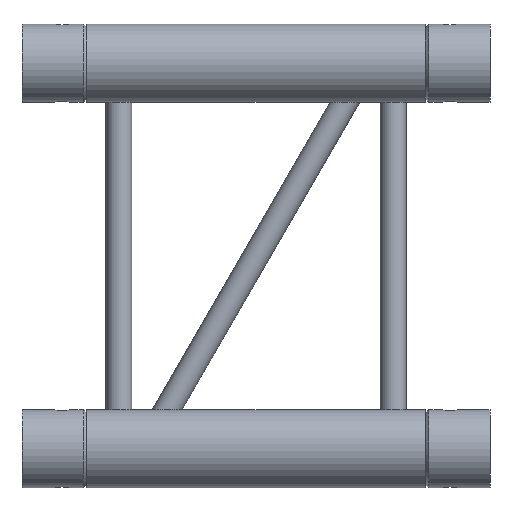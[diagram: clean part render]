
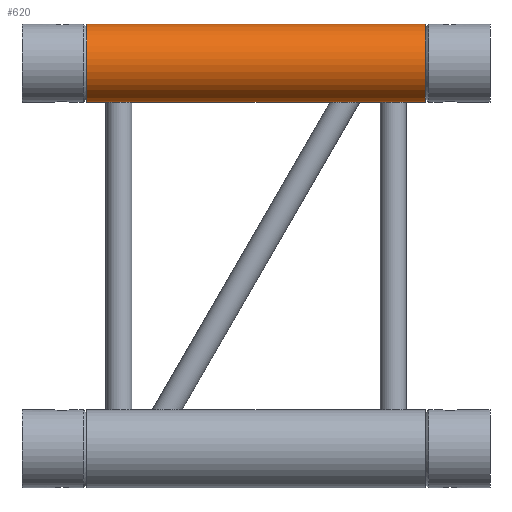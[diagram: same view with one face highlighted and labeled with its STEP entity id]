
A CAD part, top view. The second image highlights one B-rep face of the part: STEP entity #620.
In plain terms, the highlighted cylindrical face has radius 24.15 mm (diameter 48.3 mm), a full revolution.
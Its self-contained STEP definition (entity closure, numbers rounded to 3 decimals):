
#35=LINE('',#1067,#39);
#36=LINE('',#1070,#40);
#39=VECTOR('',#828,16.);
#40=VECTOR('',#829,16.);
#57=CIRCLE('',#689,24.15);
#59=CIRCLE('',#692,24.15);
#99=FACE_BOUND('',#232,.T.);
#100=FACE_BOUND('',#233,.T.);
#101=FACE_BOUND('',#234,.T.);
#131=CYLINDRICAL_SURFACE('',#694,24.15);
#164=FACE_OUTER_BOUND('',#231,.T.);
#231=EDGE_LOOP('',(#445));
#232=EDGE_LOOP('',(#446,#447));
#233=EDGE_LOOP('',(#448,#449));
#234=EDGE_LOOP('',(#450));
#308=VERTEX_POINT('',#1055);
#310=VERTEX_POINT('',#1060);
#312=VERTEX_POINT('',#1065);
#313=VERTEX_POINT('',#1066);
#314=VERTEX_POINT('',#1068);
#315=VERTEX_POINT('',#1069);
#362=EDGE_CURVE('',#308,#308,#57,.T.);
#364=EDGE_CURVE('',#310,#310,#59,.T.);
#366=EDGE_CURVE('',#312,#313,#35,.T.);
#367=EDGE_CURVE('',#314,#315,#36,.T.);
#445=ORIENTED_EDGE('',*,*,#362,.T.);
#446=ORIENTED_EDGE('',*,*,#366,.T.);
#447=ORIENTED_EDGE('',*,*,#366,.F.);
#448=ORIENTED_EDGE('',*,*,#367,.T.);
#449=ORIENTED_EDGE('',*,*,#367,.F.);
#450=ORIENTED_EDGE('',*,*,#364,.T.);
#620=ADVANCED_FACE('',(#164,#99,#100,#101),#131,.T.);
#689=AXIS2_PLACEMENT_3D('',#1056,#816,#817);
#692=AXIS2_PLACEMENT_3D('',#1061,#822,#823);
#694=AXIS2_PLACEMENT_3D('',#1064,#826,#827);
#816=DIRECTION('center_axis',(1.,0.,0.));
#817=DIRECTION('ref_axis',(0.,-0.895,0.445));
#822=DIRECTION('center_axis',(-1.,0.,0.));
#823=DIRECTION('ref_axis',(0.,-0.895,0.445));
#826=DIRECTION('center_axis',(1.,0.,0.));
#827=DIRECTION('ref_axis',(0.,-0.895,0.445));
#828=DIRECTION('',(1.,0.,0.));
#829=DIRECTION('',(1.,0.,0.));
#1055=CARTESIAN_POINT('',(40.,260.622,-10.757));
#1056=CARTESIAN_POINT('Origin',(40.,239.,0.));
#1060=CARTESIAN_POINT('',(250.,260.622,-10.757));
#1061=CARTESIAN_POINT('Origin',(250.,239.,0.));
#1064=CARTESIAN_POINT('Origin',(145.,239.,0.));
#1065=CARTESIAN_POINT('',(52.,214.85,0.));
#1066=CARTESIAN_POINT('',(68.,214.85,0.));
#1067=CARTESIAN_POINT('',(145.,214.85,0.));
#1068=CARTESIAN_POINT('',(222.,214.85,0.));
#1069=CARTESIAN_POINT('',(238.,214.85,0.));
#1070=CARTESIAN_POINT('',(145.,214.85,0.));
